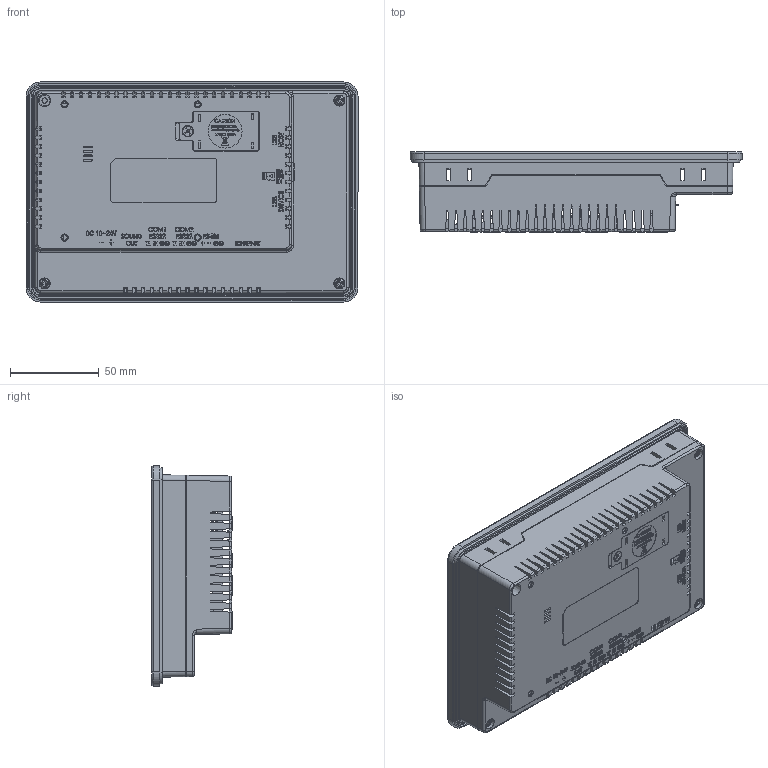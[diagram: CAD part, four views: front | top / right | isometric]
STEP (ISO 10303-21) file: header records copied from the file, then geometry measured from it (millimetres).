
FILE_DESCRIPTION (( 'STEP AP214' ), '1' );
FILE_NAME ('CHA-070WT_蝶變瞪辨.STEP', '2023-05-26T08:17:17', ( '' ), ( '' ), 'SwSTEP 2.0', 'SolidWorks 2020', '' );
FILE_SCHEMA (( 'AUTOMOTIVE_DESIGN' ));
Length unit declared in the file: millimetre
Products named in the file (1): CHA-070WT_蝶變瞪辨
Bounding box: 187 x 45.3 x 124 mm (x, y, z)
Surface area: 125247.9 mm2 (no closed solid volume)
Topology: 0 solids, 48 shells, 2174 faces, 9470 edges, 6890 vertices
Faces by surface type: plane 1389, bspline 500, cylinder 221, cone 36, torus 25, sphere 3
Full cylindrical faces by diameter (mm): 0.56 x1, 0.6 x2, 0.723 x1, 1.601 x1, 2 x3, 3 x4, 3.6 x1, 5 x1, 7 x1
Entity records: 150476 total; most frequent: CARTESIAN_POINT 58747, ORIENTED_EDGE 14124, DIRECTION 10456, EDGE_CURVE 9403, VERTEX_POINT 6873, LINE 6354, VECTOR 6354, EDGE_LOOP 2531
